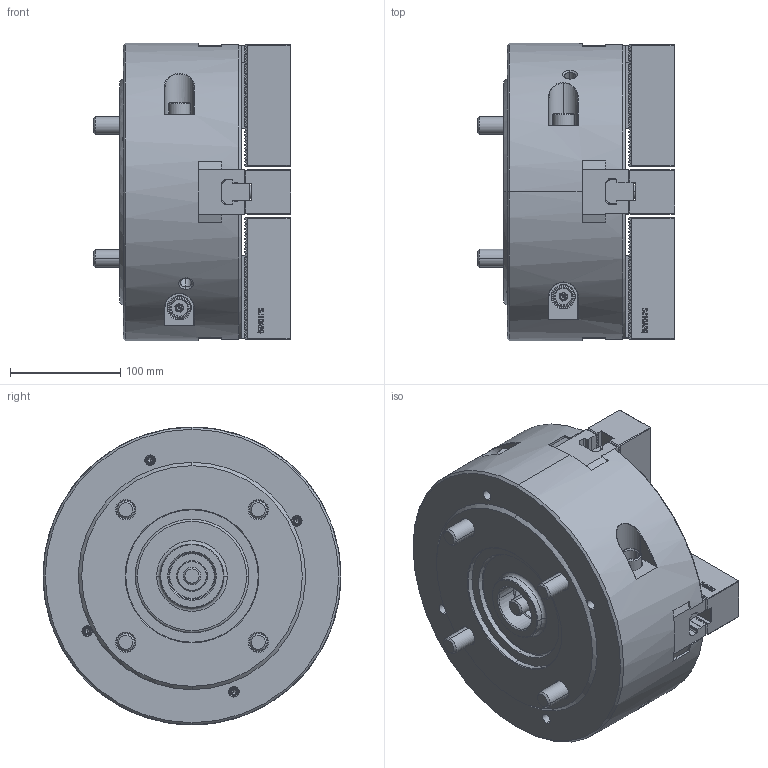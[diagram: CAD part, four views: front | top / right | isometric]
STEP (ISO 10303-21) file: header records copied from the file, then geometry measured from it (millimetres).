
FILE_DESCRIPTION (( 'STEP AP214' ), '1' );
FILE_NAME ('DT1_HW-10_OUTSIDE_VIEW_HOL.STEP', '2026-01-26T02:56:11', ( '' ), ( '' ), 'SwSTEP 2.0', 'SolidWorks 2022', '' );
FILE_SCHEMA (( 'AUTOMOTIVE_DESIGN' ));
Length unit declared in the file: millimetre
Products named in the file (10): DT1_HW10_SOFTJAW^DT1_HW-10; DT1_HW10_BASE^DT1_HW-10; DT1_HW-10_OUTSIDE_VIEW_HOL; DT1_HW10_M5x10^DT1_HW-10; DT1_HW10_DN^DT1_HW-10; DT1_HW10_COVER^DT1_HW-10; DT1_HW10_TNUT^DT1_HW-10; DT1_HW10_M16x115^DT1_HW-10; DT1_HW10_DRAWSCREW^DT1_HW-10; DT1_HW10_M12x35^DT1_HW-10
Assembly tree (28 placements, depth 2):
  DT1_HW-10_OUTSIDE_VIEW_HOL
    DT1_HW10_SOFTJAW^DT1_HW-10  x4
    DT1_HW10_TNUT^DT1_HW-10  x4
    DT1_HW10_COVER^DT1_HW-10
    DT1_HW10_DRAWSCREW^DT1_HW-10
    DT1_HW10_DN^DT1_HW-10
    DT1_HW10_BASE^DT1_HW-10
    DT1_HW10_M16x115^DT1_HW-10  x4
    DT1_HW10_M12x35^DT1_HW-10  x8
    DT1_HW10_M5x10^DT1_HW-10  x4
Bounding box: 179 x 270 x 270 mm (x, y, z)
Volume: 6659193 mm3; surface area: 531300.4 mm2
Topology: 28 solids, 30 shells, 5074 faces, 14229 edges, 9325 vertices
Faces by surface type: plane 3042, cylinder 1112, cone 451, bspline 403, torus 58, sphere 8
Entity records: 114126 total; most frequent: CARTESIAN_POINT 35654, ORIENTED_EDGE 17400, DIRECTION 14435, EDGE_CURVE 8700, VECTOR 6245, LINE 6245, VERTEX_POINT 5712, AXIS2_PLACEMENT_3D 4095
